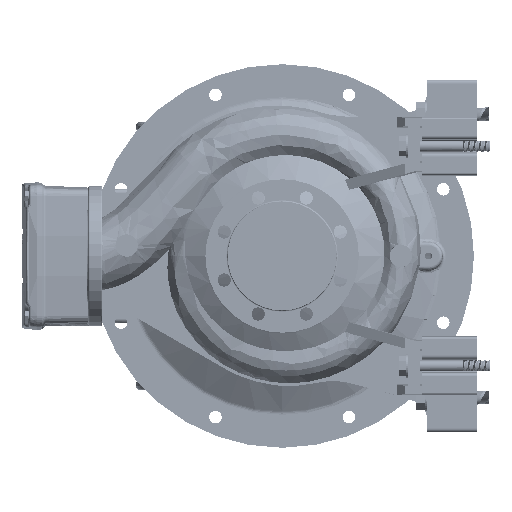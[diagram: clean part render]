
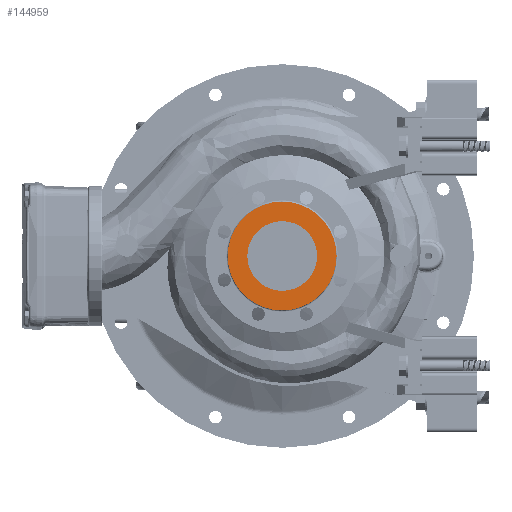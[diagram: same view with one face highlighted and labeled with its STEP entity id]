
A CAD part, left-side view. The second image highlights one B-rep face of the part: STEP entity #144959.
In plain terms, the highlighted planar face has unit normal (-1, 0, 0).
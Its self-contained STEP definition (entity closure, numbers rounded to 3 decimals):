
#7340 = AXIS2_PLACEMENT_3D ( 'NONE', #44911, #32758, #150561 ) ;
#12431 = PLANE ( 'NONE',  #53527 ) ;
#23128 = ORIENTED_EDGE ( 'NONE', *, *, #145464, .T. ) ;
#24589 = FACE_OUTER_BOUND ( 'NONE', #160188, .T. ) ;
#25857 = DIRECTION ( 'NONE',  ( -1., 0., 0. ) ) ;
#30266 = EDGE_CURVE ( 'NONE', #163442, #114815, #154210, .T. ) ;
#32758 = DIRECTION ( 'NONE',  ( -1., 0., 0. ) ) ;
#33707 = DIRECTION ( 'NONE',  ( -1., 0., 0. ) ) ;
#40874 = CARTESIAN_POINT ( 'NONE',  ( -125., -78., 0. ) ) ;
#42639 = AXIS2_PLACEMENT_3D ( 'NONE', #118575, #25857, #104696 ) ;
#44911 = CARTESIAN_POINT ( 'NONE',  ( -125., 0., 0. ) ) ;
#48920 = EDGE_CURVE ( 'NONE', #110928, #90827, #138441, .T. ) ;
#53527 = AXIS2_PLACEMENT_3D ( 'NONE', #130290, #75719, #88748 ) ;
#70493 = ORIENTED_EDGE ( 'NONE', *, *, #30266, .F. ) ;
#75719 = DIRECTION ( 'NONE',  ( 1., 0., 0. ) ) ;
#77287 = CARTESIAN_POINT ( 'NONE',  ( -125., 78., 0. ) ) ;
#81753 = CARTESIAN_POINT ( 'NONE',  ( -125., 0., 50. ) ) ;
#88748 = DIRECTION ( 'NONE',  ( 0., 0., 1. ) ) ;
#89727 = EDGE_CURVE ( 'NONE', #114815, #163442, #117976, .T. ) ;
#90827 = VERTEX_POINT ( 'NONE', #40874 ) ;
#101641 = AXIS2_PLACEMENT_3D ( 'NONE', #110813, #33707, #137700 ) ;
#104696 = DIRECTION ( 'NONE',  ( 0., -1., 0. ) ) ;
#110813 = CARTESIAN_POINT ( 'NONE',  ( -125., 0., 0. ) ) ;
#110928 = VERTEX_POINT ( 'NONE', #77287 ) ;
#114218 = DIRECTION ( 'NONE',  ( -1., 0., 0. ) ) ;
#114815 = VERTEX_POINT ( 'NONE', #168780 ) ;
#117291 = CIRCLE ( 'NONE', #42639, 78. ) ;
#117976 = CIRCLE ( 'NONE', #7340, 50. ) ;
#118575 = CARTESIAN_POINT ( 'NONE',  ( -125., 0., 0. ) ) ;
#130290 = CARTESIAN_POINT ( 'NONE',  ( -125., 50.001, -50.001 ) ) ;
#130642 = DIRECTION ( 'NONE',  ( 0., -1., 0. ) ) ;
#132597 = ORIENTED_EDGE ( 'NONE', *, *, #89727, .F. ) ;
#137586 = EDGE_LOOP ( 'NONE', ( #70493, #132597 ) ) ;
#137700 = DIRECTION ( 'NONE',  ( 0., 0., 1. ) ) ;
#138441 = CIRCLE ( 'NONE', #146701, 78. ) ;
#144959 = ADVANCED_FACE ( 'NONE', ( #166723, #24589 ), #12431, .F. ) ;
#145464 = EDGE_CURVE ( 'NONE', #90827, #110928, #117291, .T. ) ;
#146701 = AXIS2_PLACEMENT_3D ( 'NONE', #168764, #114218, #130642 ) ;
#150561 = DIRECTION ( 'NONE',  ( 0., 0., 1. ) ) ;
#154210 = CIRCLE ( 'NONE', #101641, 50. ) ;
#160188 = EDGE_LOOP ( 'NONE', ( #23128, #168849 ) ) ;
#163442 = VERTEX_POINT ( 'NONE', #81753 ) ;
#166723 = FACE_BOUND ( 'NONE', #137586, .T. ) ;
#168764 = CARTESIAN_POINT ( 'NONE',  ( -125., 0., 0. ) ) ;
#168780 = CARTESIAN_POINT ( 'NONE',  ( -125., 0., -50. ) ) ;
#168849 = ORIENTED_EDGE ( 'NONE', *, *, #48920, .T. ) ;
